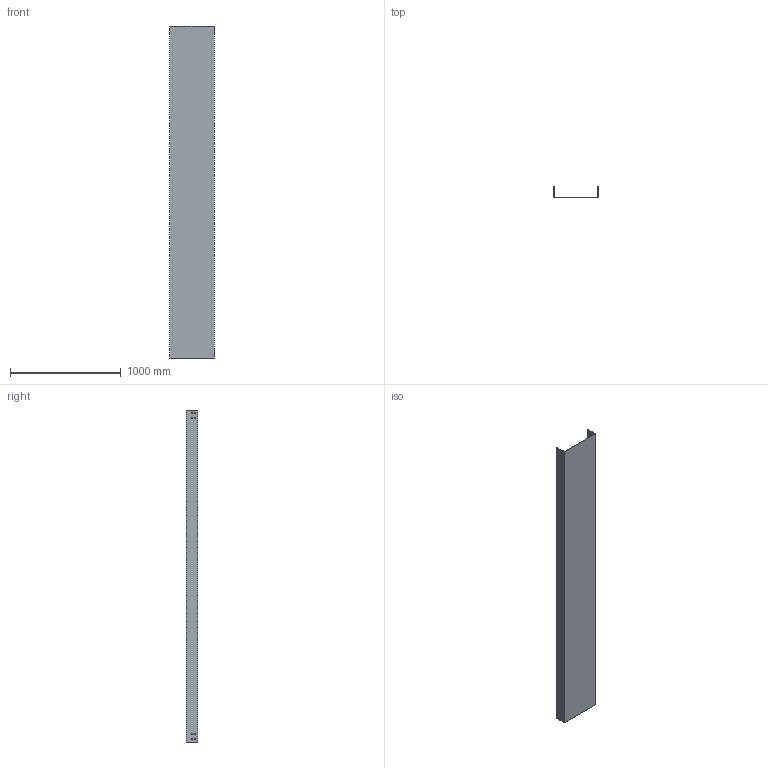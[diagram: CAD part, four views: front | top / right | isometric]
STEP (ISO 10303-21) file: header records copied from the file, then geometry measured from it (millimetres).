
FILE_DESCRIPTION (( 'STEP AP214' ), '1' );
FILE_NAME ('CC_401.step', '2025-07-16T09:04:31', ( '' ), ( '' ), 'SwSTEP 2.0', 'SolidWorks 2023', '' );
FILE_SCHEMA (( 'AUTOMOTIVE_DESIGN' ));
Length unit declared in the file: millimetre
Products named in the file (1): CC_401
Bounding box: 400 x 100 x 3000 mm (x, y, z)
Volume: 2684820 mm3; surface area: 3591367 mm2
Topology: 1 solids, 1 shells, 74 faces, 216 edges, 144 vertices
Faces by surface type: plane 74
Entity records: 2487 total; most frequent: CARTESIAN_POINT 435, ORIENTED_EDGE 432, DIRECTION 366, LINE 216, VECTOR 216, EDGE_CURVE 216, VERTEX_POINT 144, EDGE_LOOP 106
